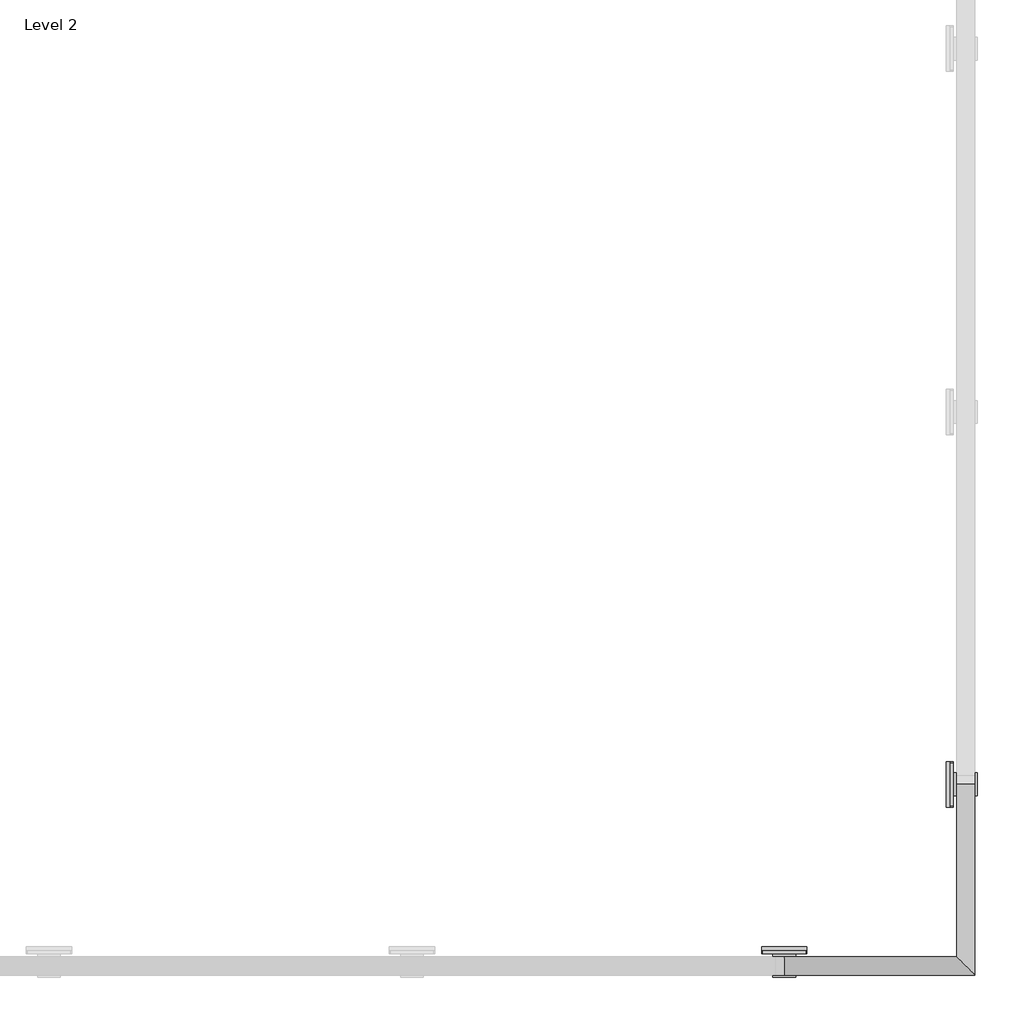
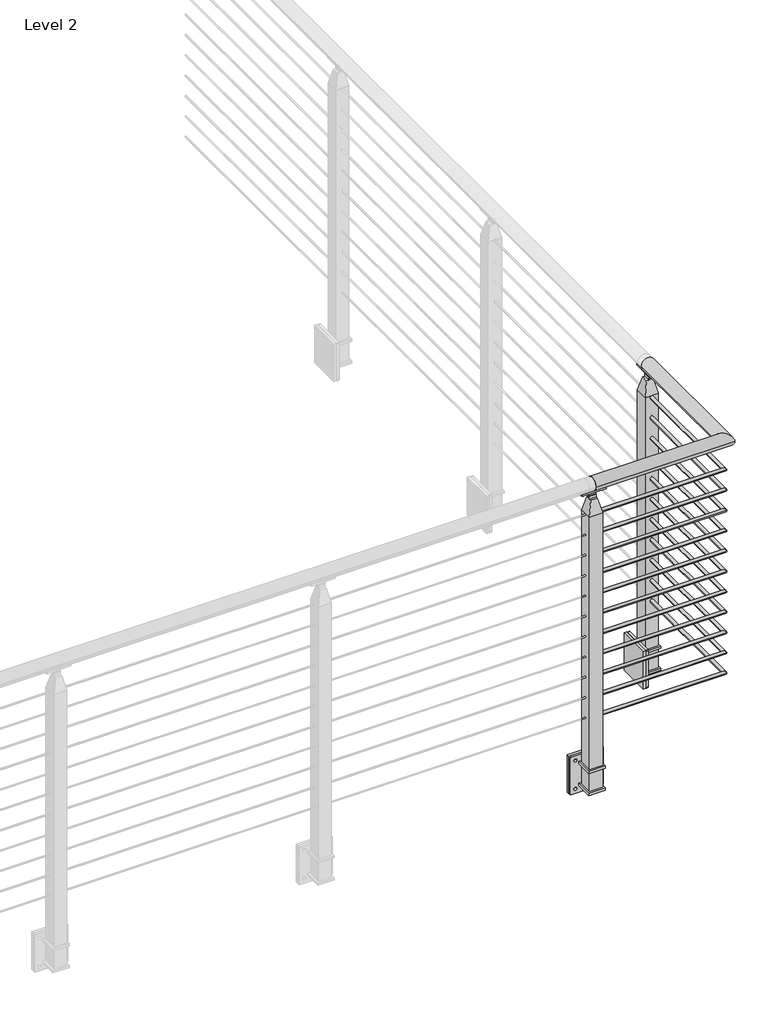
# One storey, part 3 of 17: 1 railing.
"""IFC4 building model written with IfcOpenShell, lengths in millimetres."""

from ifc_helpers import new_model, si_unit, point, frame, frame_2d, origin, place, context, project, spatial, polyline, circle_curve, ellipse_curve, trimmed, segment, composite_curve, outline, extrude, faceted_brep, element, save
from ifc_brep_helpers import plane_surface, cylinder_surface, revolved_surface, advanced_brep

model = new_model("IFC4")

# Units and contexts
model_context = context("Model", 3, world=origin())
ifc_project = project(units=[si_unit("LENGTHUNIT", "METRE", prefix="MILLI")], contexts=[model_context])

# Site, building, storey
site = spatial("IfcSite", under=ifc_project)
building = spatial("IfcBuilding", under=site)
storey = spatial("IfcBuildingStorey", under=building, Name="Level 2", Elevation=3048.0)

# Railing
placement = place(None, origin())
element("IfcRailing", 1, ObjectType="VIVA-CUBE-Cable-Fascia Mount-Corner", at=placement, inside=storey, context=model_context, shape_type="SolidModel", body=[
    advanced_brep(
    [(-4059.2538707, -52324.3556522, 4102.1), (-4059.2538707, -52273.5556522, 4102.1), (-3525.8538707, -52324.3556522, 4102.1), (-3576.6538707, -52273.5556522, 4102.1), (-3525.8538707, -51790.9556522, 4102.1), (-3576.6538707, -51790.9556522, 4102.1)],
    [
        (0, 1, circle_curve(frame((-4059.2538707, -52298.9556522, 4102.1), z_axis=(-1.0, 0.0, 0.0), x_axis=(0.0, 1.0, 0.0)), 25.4)),
        (1, 0, circle_curve(frame((-4059.2538707, -52298.9556522, 4102.1), z_axis=(-1.0, 0.0, 0.0), x_axis=(0.0, 1.0, 0.0)), 25.4)),
        (0, 2),
        (2, 3, ellipse_curve(frame((-3551.2538707, -52298.9556522, 4102.1), z_axis=(-0.7071067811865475, -0.7071067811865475, 0.0), x_axis=(-0.7071067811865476, 0.7071067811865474, 0.0)), 35.9210245, 25.4)),
        (3, 1),
        (3, 2, ellipse_curve(frame((-3551.2538707, -52298.9556522, 4102.1), z_axis=(-0.7071067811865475, -0.7071067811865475, 0.0), x_axis=(-0.7071067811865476, 0.7071067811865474, 0.0)), 35.9210245, 25.4)),
        (4, 5, circle_curve(frame((-3551.2538707, -51790.9556522, 4102.1), z_axis=(0.0, 1.0, 0.0), x_axis=(-1.0, 0.0, 0.0)), 25.4)),
        (5, 4, circle_curve(frame((-3551.2538707, -51790.9556522, 4102.1), z_axis=(0.0, 1.0, 0.0), x_axis=(-1.0, 0.0, 0.0)), 25.4)),
        (2, 4),
        (5, 3),
    ],
    [
        plane_surface(frame((-4059.2538707, -52298.9556522, 4127.5), z_axis=(-1.0, 0.0, 0.0), x_axis=(0.0, 1.0, 0.0))),
        cylinder_surface(frame((-4059.2538707, -52298.9556522, 4102.1), z_axis=(-1.0, 0.0, 0.0), x_axis=(0.0, 1.0, 0.0)), 25.4),
        plane_surface(frame((-3551.2538707, -51790.9556522, 4127.5), z_axis=(0.0, 1.0, 0.0), x_axis=(0.0, 0.0, 1.0))),
        cylinder_surface(frame((-3551.2538707, -52298.9556522, 4102.1), z_axis=(0.0, -1.0, 0.0), x_axis=(-1.0, 0.0, 0.0)), 25.4),
    ],
    [
        (0, [[1, 2]]),
        (1, [[-1, 3, 4, 5]]),
        (1, [[-2, -5, 6, -3]]),
        (2, [[7, 8]]),
        (3, [[-4, 9, -8, 10]]),
        (3, [[-6, -10, -7, -9]]),
    ],
),
    advanced_brep(
    [(-4059.2538707, -52292.6056522, 3981.45), (-4059.2538707, -52305.3056522, 3981.45), (-3557.6038707, -52292.6056522, 3981.45), (-3544.9038707, -52305.3056522, 3981.45), (-3557.6038707, -51790.9556522, 3981.45), (-3544.9038707, -51790.9556522, 3981.45)],
    [
        (0, 1, circle_curve(frame((-4059.2538707, -52298.9556522, 3981.45), z_axis=(-1.0, 0.0, 0.0), x_axis=(0.0, -1.0, 0.0)), 6.35)),
        (1, 0, circle_curve(frame((-4059.2538707, -52298.9556522, 3981.45), z_axis=(-1.0, 0.0, 0.0), x_axis=(0.0, -1.0, 0.0)), 6.35)),
        (0, 2),
        (2, 3, ellipse_curve(frame((-3551.2538707, -52298.9556522, 3981.45), z_axis=(-0.7071067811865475, -0.7071067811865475, 0.0), x_axis=(-0.7071067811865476, 0.7071067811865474, 0.0)), 8.9802561, 6.35)),
        (3, 1),
        (3, 2, ellipse_curve(frame((-3551.2538707, -52298.9556522, 3981.45), z_axis=(-0.7071067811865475, -0.7071067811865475, 0.0), x_axis=(-0.7071067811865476, 0.7071067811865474, 0.0)), 8.9802561, 6.35)),
        (4, 5, circle_curve(frame((-3551.2538707, -51790.9556522, 3981.45), z_axis=(0.0, 1.0, 0.0), x_axis=(1.0, 0.0, 0.0)), 6.35)),
        (5, 4, circle_curve(frame((-3551.2538707, -51790.9556522, 3981.45), z_axis=(0.0, 1.0, 0.0), x_axis=(1.0, 0.0, 0.0)), 6.35)),
        (2, 4),
        (5, 3),
    ],
    [
        plane_surface(frame((-4059.2538707, -52298.9556522, 3987.8), z_axis=(-1.0, 0.0, 0.0), x_axis=(0.0, 1.0, 0.0))),
        cylinder_surface(frame((-4059.2538707, -52298.9556522, 3981.45), z_axis=(-1.0, 0.0, 0.0), x_axis=(0.0, -1.0, 0.0)), 6.35),
        plane_surface(frame((-3551.2538707, -51790.9556522, 3987.8), z_axis=(0.0, 1.0, 0.0), x_axis=(0.0, 0.0, 1.0))),
        cylinder_surface(frame((-3551.2538707, -52298.9556522, 3981.45), z_axis=(0.0, -1.0, 0.0), x_axis=(1.0, 0.0, 0.0)), 6.35),
    ],
    [
        (0, [[1, 2]]),
        (1, [[-1, 3, 4, 5]]),
        (1, [[-2, -5, 6, -3]]),
        (2, [[7, 8]]),
        (3, [[-4, 9, -8, 10]]),
        (3, [[-6, -10, -7, -9]]),
    ],
),
    advanced_brep(
    [(-4059.2538707, -52292.6056522, 3898.9), (-4059.2538707, -52305.3056522, 3898.9), (-3557.6038707, -52292.6056522, 3898.9), (-3544.9038707, -52305.3056522, 3898.9), (-3557.6038707, -51790.9556522, 3898.9), (-3544.9038707, -51790.9556522, 3898.9)],
    [
        (0, 1, circle_curve(frame((-4059.2538707, -52298.9556522, 3898.9), z_axis=(-1.0, 0.0, 0.0), x_axis=(0.0, -1.0, 0.0)), 6.35)),
        (1, 0, circle_curve(frame((-4059.2538707, -52298.9556522, 3898.9), z_axis=(-1.0, 0.0, 0.0), x_axis=(0.0, -1.0, 0.0)), 6.35)),
        (0, 2),
        (2, 3, ellipse_curve(frame((-3551.2538707, -52298.9556522, 3898.9), z_axis=(-0.7071067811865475, -0.7071067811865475, 0.0), x_axis=(-0.7071067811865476, 0.7071067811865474, 0.0)), 8.9802561, 6.35)),
        (3, 1),
        (3, 2, ellipse_curve(frame((-3551.2538707, -52298.9556522, 3898.9), z_axis=(-0.7071067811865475, -0.7071067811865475, 0.0), x_axis=(-0.7071067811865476, 0.7071067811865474, 0.0)), 8.9802561, 6.35)),
        (4, 5, circle_curve(frame((-3551.2538707, -51790.9556522, 3898.9), z_axis=(0.0, 1.0, 0.0), x_axis=(1.0, 0.0, 0.0)), 6.35)),
        (5, 4, circle_curve(frame((-3551.2538707, -51790.9556522, 3898.9), z_axis=(0.0, 1.0, 0.0), x_axis=(1.0, 0.0, 0.0)), 6.35)),
        (2, 4),
        (5, 3),
    ],
    [
        plane_surface(frame((-4059.2538707, -52298.9556522, 3905.25), z_axis=(-1.0, 0.0, 0.0), x_axis=(0.0, 1.0, 0.0))),
        cylinder_surface(frame((-4059.2538707, -52298.9556522, 3898.9), z_axis=(-1.0, 0.0, 0.0), x_axis=(0.0, -1.0, 0.0)), 6.35),
        plane_surface(frame((-3551.2538707, -51790.9556522, 3905.25), z_axis=(0.0, 1.0, 0.0), x_axis=(0.0, 0.0, 1.0))),
        cylinder_surface(frame((-3551.2538707, -52298.9556522, 3898.9), z_axis=(0.0, -1.0, 0.0), x_axis=(1.0, 0.0, 0.0)), 6.35),
    ],
    [
        (0, [[1, 2]]),
        (1, [[-1, 3, 4, 5]]),
        (1, [[-2, -5, 6, -3]]),
        (2, [[7, 8]]),
        (3, [[-4, 9, -8, 10]]),
        (3, [[-6, -10, -7, -9]]),
    ],
),
    advanced_brep(
    [(-4059.2538707, -52292.6056522, 3816.35), (-4059.2538707, -52305.3056522, 3816.35), (-3557.6038707, -52292.6056522, 3816.35), (-3544.9038707, -52305.3056522, 3816.35), (-3557.6038707, -51790.9556522, 3816.35), (-3544.9038707, -51790.9556522, 3816.35)],
    [
        (0, 1, circle_curve(frame((-4059.2538707, -52298.9556522, 3816.35), z_axis=(-1.0, 0.0, 0.0), x_axis=(0.0, -1.0, 0.0)), 6.35)),
        (1, 0, circle_curve(frame((-4059.2538707, -52298.9556522, 3816.35), z_axis=(-1.0, 0.0, 0.0), x_axis=(0.0, -1.0, 0.0)), 6.35)),
        (0, 2),
        (2, 3, ellipse_curve(frame((-3551.2538707, -52298.9556522, 3816.35), z_axis=(-0.7071067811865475, -0.7071067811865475, 0.0), x_axis=(-0.7071067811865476, 0.7071067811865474, 0.0)), 8.9802561, 6.35)),
        (3, 1),
        (3, 2, ellipse_curve(frame((-3551.2538707, -52298.9556522, 3816.35), z_axis=(-0.7071067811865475, -0.7071067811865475, 0.0), x_axis=(-0.7071067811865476, 0.7071067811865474, 0.0)), 8.9802561, 6.35)),
        (4, 5, circle_curve(frame((-3551.2538707, -51790.9556522, 3816.35), z_axis=(0.0, 1.0, 0.0), x_axis=(1.0, 0.0, 0.0)), 6.35)),
        (5, 4, circle_curve(frame((-3551.2538707, -51790.9556522, 3816.35), z_axis=(0.0, 1.0, 0.0), x_axis=(1.0, 0.0, 0.0)), 6.35)),
        (2, 4),
        (5, 3),
    ],
    [
        plane_surface(frame((-4059.2538707, -52298.9556522, 3822.7), z_axis=(-1.0, 0.0, 0.0), x_axis=(0.0, 1.0, 0.0))),
        cylinder_surface(frame((-4059.2538707, -52298.9556522, 3816.35), z_axis=(-1.0, 0.0, 0.0), x_axis=(0.0, -1.0, 0.0)), 6.35),
        plane_surface(frame((-3551.2538707, -51790.9556522, 3822.7), z_axis=(0.0, 1.0, 0.0), x_axis=(0.0, 0.0, 1.0))),
        cylinder_surface(frame((-3551.2538707, -52298.9556522, 3816.35), z_axis=(0.0, -1.0, 0.0), x_axis=(1.0, 0.0, 0.0)), 6.35),
    ],
    [
        (0, [[1, 2]]),
        (1, [[-1, 3, 4, 5]]),
        (1, [[-2, -5, 6, -3]]),
        (2, [[7, 8]]),
        (3, [[-4, 9, -8, 10]]),
        (3, [[-6, -10, -7, -9]]),
    ],
),
    advanced_brep(
    [(-4059.2538707, -52292.6056522, 3733.8), (-4059.2538707, -52305.3056522, 3733.8), (-3557.6038707, -52292.6056522, 3733.8), (-3544.9038707, -52305.3056522, 3733.8), (-3557.6038707, -51790.9556522, 3733.8), (-3544.9038707, -51790.9556522, 3733.8)],
    [
        (0, 1, circle_curve(frame((-4059.2538707, -52298.9556522, 3733.8), z_axis=(-1.0, 0.0, 0.0), x_axis=(0.0, -1.0, 0.0)), 6.35)),
        (1, 0, circle_curve(frame((-4059.2538707, -52298.9556522, 3733.8), z_axis=(-1.0, 0.0, 0.0), x_axis=(0.0, -1.0, 0.0)), 6.35)),
        (0, 2),
        (2, 3, ellipse_curve(frame((-3551.2538707, -52298.9556522, 3733.8), z_axis=(-0.7071067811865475, -0.7071067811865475, 0.0), x_axis=(-0.7071067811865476, 0.7071067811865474, 0.0)), 8.9802561, 6.35)),
        (3, 1),
        (3, 2, ellipse_curve(frame((-3551.2538707, -52298.9556522, 3733.8), z_axis=(-0.7071067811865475, -0.7071067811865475, 0.0), x_axis=(-0.7071067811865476, 0.7071067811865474, 0.0)), 8.9802561, 6.35)),
        (4, 5, circle_curve(frame((-3551.2538707, -51790.9556522, 3733.8), z_axis=(0.0, 1.0, 0.0), x_axis=(1.0, 0.0, 0.0)), 6.35)),
        (5, 4, circle_curve(frame((-3551.2538707, -51790.9556522, 3733.8), z_axis=(0.0, 1.0, 0.0), x_axis=(1.0, 0.0, 0.0)), 6.35)),
        (2, 4),
        (5, 3),
    ],
    [
        plane_surface(frame((-4059.2538707, -52298.9556522, 3740.15), z_axis=(-1.0, 0.0, 0.0), x_axis=(0.0, 1.0, 0.0))),
        cylinder_surface(frame((-4059.2538707, -52298.9556522, 3733.8), z_axis=(-1.0, 0.0, 0.0), x_axis=(0.0, -1.0, 0.0)), 6.35),
        plane_surface(frame((-3551.2538707, -51790.9556522, 3740.15), z_axis=(0.0, 1.0, 0.0), x_axis=(0.0, 0.0, 1.0))),
        cylinder_surface(frame((-3551.2538707, -52298.9556522, 3733.8), z_axis=(0.0, -1.0, 0.0), x_axis=(1.0, 0.0, 0.0)), 6.35),
    ],
    [
        (0, [[1, 2]]),
        (1, [[-1, 3, 4, 5]]),
        (1, [[-2, -5, 6, -3]]),
        (2, [[7, 8]]),
        (3, [[-4, 9, -8, 10]]),
        (3, [[-6, -10, -7, -9]]),
    ],
),
    advanced_brep(
    [(-4059.2538707, -52292.6056522, 3651.25), (-4059.2538707, -52305.3056522, 3651.25), (-3557.6038707, -52292.6056522, 3651.25), (-3544.9038707, -52305.3056522, 3651.25), (-3557.6038707, -51790.9556522, 3651.25), (-3544.9038707, -51790.9556522, 3651.25)],
    [
        (0, 1, circle_curve(frame((-4059.2538707, -52298.9556522, 3651.25), z_axis=(-1.0, 0.0, 0.0), x_axis=(0.0, -1.0, 0.0)), 6.35)),
        (1, 0, circle_curve(frame((-4059.2538707, -52298.9556522, 3651.25), z_axis=(-1.0, 0.0, 0.0), x_axis=(0.0, -1.0, 0.0)), 6.35)),
        (0, 2),
        (2, 3, ellipse_curve(frame((-3551.2538707, -52298.9556522, 3651.25), z_axis=(-0.7071067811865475, -0.7071067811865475, 0.0), x_axis=(-0.7071067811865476, 0.7071067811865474, 0.0)), 8.9802561, 6.35)),
        (3, 1),
        (3, 2, ellipse_curve(frame((-3551.2538707, -52298.9556522, 3651.25), z_axis=(-0.7071067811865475, -0.7071067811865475, 0.0), x_axis=(-0.7071067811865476, 0.7071067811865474, 0.0)), 8.9802561, 6.35)),
        (4, 5, circle_curve(frame((-3551.2538707, -51790.9556522, 3651.25), z_axis=(0.0, 1.0, 0.0), x_axis=(1.0, 0.0, 0.0)), 6.35)),
        (5, 4, circle_curve(frame((-3551.2538707, -51790.9556522, 3651.25), z_axis=(0.0, 1.0, 0.0), x_axis=(1.0, 0.0, 0.0)), 6.35)),
        (2, 4),
        (5, 3),
    ],
    [
        plane_surface(frame((-4059.2538707, -52298.9556522, 3657.6), z_axis=(-1.0, 0.0, 0.0), x_axis=(0.0, 1.0, 0.0))),
        cylinder_surface(frame((-4059.2538707, -52298.9556522, 3651.25), z_axis=(-1.0, 0.0, 0.0), x_axis=(0.0, -1.0, 0.0)), 6.35),
        plane_surface(frame((-3551.2538707, -51790.9556522, 3657.6), z_axis=(0.0, 1.0, 0.0), x_axis=(0.0, 0.0, 1.0))),
        cylinder_surface(frame((-3551.2538707, -52298.9556522, 3651.25), z_axis=(0.0, -1.0, 0.0), x_axis=(1.0, 0.0, 0.0)), 6.35),
    ],
    [
        (0, [[1, 2]]),
        (1, [[-1, 3, 4, 5]]),
        (1, [[-2, -5, 6, -3]]),
        (2, [[7, 8]]),
        (3, [[-4, 9, -8, 10]]),
        (3, [[-6, -10, -7, -9]]),
    ],
),
    advanced_brep(
    [(-4059.2538707, -52292.6056522, 3568.7), (-4059.2538707, -52305.3056522, 3568.7), (-3557.6038707, -52292.6056522, 3568.7), (-3544.9038707, -52305.3056522, 3568.7), (-3557.6038707, -51790.9556522, 3568.7), (-3544.9038707, -51790.9556522, 3568.7)],
    [
        (0, 1, circle_curve(frame((-4059.2538707, -52298.9556522, 3568.7), z_axis=(-1.0, 0.0, 0.0), x_axis=(0.0, -1.0, 0.0)), 6.35)),
        (1, 0, circle_curve(frame((-4059.2538707, -52298.9556522, 3568.7), z_axis=(-1.0, 0.0, 0.0), x_axis=(0.0, -1.0, 0.0)), 6.35)),
        (0, 2),
        (2, 3, ellipse_curve(frame((-3551.2538707, -52298.9556522, 3568.7), z_axis=(-0.7071067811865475, -0.7071067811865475, 0.0), x_axis=(-0.7071067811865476, 0.7071067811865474, 0.0)), 8.9802561, 6.35)),
        (3, 1),
        (3, 2, ellipse_curve(frame((-3551.2538707, -52298.9556522, 3568.7), z_axis=(-0.7071067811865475, -0.7071067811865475, 0.0), x_axis=(-0.7071067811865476, 0.7071067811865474, 0.0)), 8.9802561, 6.35)),
        (4, 5, circle_curve(frame((-3551.2538707, -51790.9556522, 3568.7), z_axis=(0.0, 1.0, 0.0), x_axis=(1.0, 0.0, 0.0)), 6.35)),
        (5, 4, circle_curve(frame((-3551.2538707, -51790.9556522, 3568.7), z_axis=(0.0, 1.0, 0.0), x_axis=(1.0, 0.0, 0.0)), 6.35)),
        (2, 4),
        (5, 3),
    ],
    [
        plane_surface(frame((-4059.2538707, -52298.9556522, 3575.05), z_axis=(-1.0, 0.0, 0.0), x_axis=(0.0, 1.0, 0.0))),
        cylinder_surface(frame((-4059.2538707, -52298.9556522, 3568.7), z_axis=(-1.0, 0.0, 0.0), x_axis=(0.0, -1.0, 0.0)), 6.35),
        plane_surface(frame((-3551.2538707, -51790.9556522, 3575.05), z_axis=(0.0, 1.0, 0.0), x_axis=(0.0, 0.0, 1.0))),
        cylinder_surface(frame((-3551.2538707, -52298.9556522, 3568.7), z_axis=(0.0, -1.0, 0.0), x_axis=(1.0, 0.0, 0.0)), 6.35),
    ],
    [
        (0, [[1, 2]]),
        (1, [[-1, 3, 4, 5]]),
        (1, [[-2, -5, 6, -3]]),
        (2, [[7, 8]]),
        (3, [[-4, 9, -8, 10]]),
        (3, [[-6, -10, -7, -9]]),
    ],
),
    advanced_brep(
    [(-4059.2538707, -52292.6056522, 3486.15), (-4059.2538707, -52305.3056522, 3486.15), (-3557.6038707, -52292.6056522, 3486.15), (-3544.9038707, -52305.3056522, 3486.15), (-3557.6038707, -51790.9556522, 3486.15), (-3544.9038707, -51790.9556522, 3486.15)],
    [
        (0, 1, circle_curve(frame((-4059.2538707, -52298.9556522, 3486.15), z_axis=(-1.0, 0.0, 0.0), x_axis=(0.0, -1.0, 0.0)), 6.35)),
        (1, 0, circle_curve(frame((-4059.2538707, -52298.9556522, 3486.15), z_axis=(-1.0, 0.0, 0.0), x_axis=(0.0, -1.0, 0.0)), 6.35)),
        (0, 2),
        (2, 3, ellipse_curve(frame((-3551.2538707, -52298.9556522, 3486.15), z_axis=(-0.7071067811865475, -0.7071067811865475, 0.0), x_axis=(-0.7071067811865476, 0.7071067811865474, 0.0)), 8.9802561, 6.35)),
        (3, 1),
        (3, 2, ellipse_curve(frame((-3551.2538707, -52298.9556522, 3486.15), z_axis=(-0.7071067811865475, -0.7071067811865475, 0.0), x_axis=(-0.7071067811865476, 0.7071067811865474, 0.0)), 8.9802561, 6.35)),
        (4, 5, circle_curve(frame((-3551.2538707, -51790.9556522, 3486.15), z_axis=(0.0, 1.0, 0.0), x_axis=(1.0, 0.0, 0.0)), 6.35)),
        (5, 4, circle_curve(frame((-3551.2538707, -51790.9556522, 3486.15), z_axis=(0.0, 1.0, 0.0), x_axis=(1.0, 0.0, 0.0)), 6.35)),
        (2, 4),
        (5, 3),
    ],
    [
        plane_surface(frame((-4059.2538707, -52298.9556522, 3492.5), z_axis=(-1.0, 0.0, 0.0), x_axis=(0.0, 1.0, 0.0))),
        cylinder_surface(frame((-4059.2538707, -52298.9556522, 3486.15), z_axis=(-1.0, 0.0, 0.0), x_axis=(0.0, -1.0, 0.0)), 6.35),
        plane_surface(frame((-3551.2538707, -51790.9556522, 3492.5), z_axis=(0.0, 1.0, 0.0), x_axis=(0.0, 0.0, 1.0))),
        cylinder_surface(frame((-3551.2538707, -52298.9556522, 3486.15), z_axis=(0.0, -1.0, 0.0), x_axis=(1.0, 0.0, 0.0)), 6.35),
    ],
    [
        (0, [[1, 2]]),
        (1, [[-1, 3, 4, 5]]),
        (1, [[-2, -5, 6, -3]]),
        (2, [[7, 8]]),
        (3, [[-4, 9, -8, 10]]),
        (3, [[-6, -10, -7, -9]]),
    ],
),
    advanced_brep(
    [(-4059.2538707, -52292.6056522, 3403.6), (-4059.2538707, -52305.3056522, 3403.6), (-3557.6038707, -52292.6056522, 3403.6), (-3544.9038707, -52305.3056522, 3403.6), (-3557.6038707, -51790.9556522, 3403.6), (-3544.9038707, -51790.9556522, 3403.6)],
    [
        (0, 1, circle_curve(frame((-4059.2538707, -52298.9556522, 3403.6), z_axis=(-1.0, 0.0, 0.0), x_axis=(0.0, -1.0, 0.0)), 6.35)),
        (1, 0, circle_curve(frame((-4059.2538707, -52298.9556522, 3403.6), z_axis=(-1.0, 0.0, 0.0), x_axis=(0.0, -1.0, 0.0)), 6.35)),
        (0, 2),
        (2, 3, ellipse_curve(frame((-3551.2538707, -52298.9556522, 3403.6), z_axis=(-0.7071067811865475, -0.7071067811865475, 0.0), x_axis=(-0.7071067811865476, 0.7071067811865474, 0.0)), 8.9802561, 6.35)),
        (3, 1),
        (3, 2, ellipse_curve(frame((-3551.2538707, -52298.9556522, 3403.6), z_axis=(-0.7071067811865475, -0.7071067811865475, 0.0), x_axis=(-0.7071067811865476, 0.7071067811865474, 0.0)), 8.9802561, 6.35)),
        (4, 5, circle_curve(frame((-3551.2538707, -51790.9556522, 3403.6), z_axis=(0.0, 1.0, 0.0), x_axis=(1.0, 0.0, 0.0)), 6.35)),
        (5, 4, circle_curve(frame((-3551.2538707, -51790.9556522, 3403.6), z_axis=(0.0, 1.0, 0.0), x_axis=(1.0, 0.0, 0.0)), 6.35)),
        (2, 4),
        (5, 3),
    ],
    [
        plane_surface(frame((-4059.2538707, -52298.9556522, 3409.95), z_axis=(-1.0, 0.0, 0.0), x_axis=(0.0, 1.0, 0.0))),
        cylinder_surface(frame((-4059.2538707, -52298.9556522, 3403.6), z_axis=(-1.0, 0.0, 0.0), x_axis=(0.0, -1.0, 0.0)), 6.35),
        plane_surface(frame((-3551.2538707, -51790.9556522, 3409.95), z_axis=(0.0, 1.0, 0.0), x_axis=(0.0, 0.0, 1.0))),
        cylinder_surface(frame((-3551.2538707, -52298.9556522, 3403.6), z_axis=(0.0, -1.0, 0.0), x_axis=(1.0, 0.0, 0.0)), 6.35),
    ],
    [
        (0, [[1, 2]]),
        (1, [[-1, 3, 4, 5]]),
        (1, [[-2, -5, 6, -3]]),
        (2, [[7, 8]]),
        (3, [[-4, 9, -8, 10]]),
        (3, [[-6, -10, -7, -9]]),
    ],
),
    advanced_brep(
    [(-4059.2538707, -52292.6056522, 3321.05), (-4059.2538707, -52305.3056522, 3321.05), (-3557.6038707, -52292.6056522, 3321.05), (-3544.9038707, -52305.3056522, 3321.05), (-3557.6038707, -51790.9556522, 3321.05), (-3544.9038707, -51790.9556522, 3321.05)],
    [
        (0, 1, circle_curve(frame((-4059.2538707, -52298.9556522, 3321.05), z_axis=(-1.0, 0.0, 0.0), x_axis=(0.0, -1.0, 0.0)), 6.35)),
        (1, 0, circle_curve(frame((-4059.2538707, -52298.9556522, 3321.05), z_axis=(-1.0, 0.0, 0.0), x_axis=(0.0, -1.0, 0.0)), 6.35)),
        (0, 2),
        (2, 3, ellipse_curve(frame((-3551.2538707, -52298.9556522, 3321.05), z_axis=(-0.7071067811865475, -0.7071067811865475, 0.0), x_axis=(-0.7071067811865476, 0.7071067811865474, 0.0)), 8.9802561, 6.35)),
        (3, 1),
        (3, 2, ellipse_curve(frame((-3551.2538707, -52298.9556522, 3321.05), z_axis=(-0.7071067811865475, -0.7071067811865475, 0.0), x_axis=(-0.7071067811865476, 0.7071067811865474, 0.0)), 8.9802561, 6.35)),
        (4, 5, circle_curve(frame((-3551.2538707, -51790.9556522, 3321.05), z_axis=(0.0, 1.0, 0.0), x_axis=(1.0, 0.0, 0.0)), 6.35)),
        (5, 4, circle_curve(frame((-3551.2538707, -51790.9556522, 3321.05), z_axis=(0.0, 1.0, 0.0), x_axis=(1.0, 0.0, 0.0)), 6.35)),
        (2, 4),
        (5, 3),
    ],
    [
        plane_surface(frame((-4059.2538707, -52298.9556522, 3327.4), z_axis=(-1.0, 0.0, 0.0), x_axis=(0.0, 1.0, 0.0))),
        cylinder_surface(frame((-4059.2538707, -52298.9556522, 3321.05), z_axis=(-1.0, 0.0, 0.0), x_axis=(0.0, -1.0, 0.0)), 6.35),
        plane_surface(frame((-3551.2538707, -51790.9556522, 3327.4), z_axis=(0.0, 1.0, 0.0), x_axis=(0.0, 0.0, 1.0))),
        cylinder_surface(frame((-3551.2538707, -52298.9556522, 3321.05), z_axis=(0.0, -1.0, 0.0), x_axis=(1.0, 0.0, 0.0)), 6.35),
    ],
    [
        (0, [[1, 2]]),
        (1, [[-1, 3, 4, 5]]),
        (1, [[-2, -5, 6, -3]]),
        (2, [[7, 8]]),
        (3, [[-4, 9, -8, 10]]),
        (3, [[-6, -10, -7, -9]]),
    ],
),
    advanced_brep(
    [(-4059.2538707, -52292.6056522, 3238.5), (-4059.2538707, -52305.3056522, 3238.5), (-3557.6038707, -52292.6056522, 3238.5), (-3544.9038707, -52305.3056522, 3238.5), (-3557.6038707, -51790.9556522, 3238.5), (-3544.9038707, -51790.9556522, 3238.5)],
    [
        (0, 1, circle_curve(frame((-4059.2538707, -52298.9556522, 3238.5), z_axis=(-1.0, 0.0, 0.0), x_axis=(0.0, -1.0, 0.0)), 6.35)),
        (1, 0, circle_curve(frame((-4059.2538707, -52298.9556522, 3238.5), z_axis=(-1.0, 0.0, 0.0), x_axis=(0.0, -1.0, 0.0)), 6.35)),
        (0, 2),
        (2, 3, ellipse_curve(frame((-3551.2538707, -52298.9556522, 3238.5), z_axis=(-0.7071067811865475, -0.7071067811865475, 0.0), x_axis=(-0.7071067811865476, 0.7071067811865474, 0.0)), 8.9802561, 6.35)),
        (3, 1),
        (3, 2, ellipse_curve(frame((-3551.2538707, -52298.9556522, 3238.5), z_axis=(-0.7071067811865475, -0.7071067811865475, 0.0), x_axis=(-0.7071067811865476, 0.7071067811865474, 0.0)), 8.9802561, 6.35)),
        (4, 5, circle_curve(frame((-3551.2538707, -51790.9556522, 3238.5), z_axis=(0.0, 1.0, 0.0), x_axis=(1.0, 0.0, 0.0)), 6.35)),
        (5, 4, circle_curve(frame((-3551.2538707, -51790.9556522, 3238.5), z_axis=(0.0, 1.0, 0.0), x_axis=(1.0, 0.0, 0.0)), 6.35)),
        (2, 4),
        (5, 3),
    ],
    [
        plane_surface(frame((-4059.2538707, -52298.9556522, 3244.85), z_axis=(-1.0, 0.0, 0.0), x_axis=(0.0, 1.0, 0.0))),
        cylinder_surface(frame((-4059.2538707, -52298.9556522, 3238.5), z_axis=(-1.0, 0.0, 0.0), x_axis=(0.0, -1.0, 0.0)), 6.35),
        plane_surface(frame((-3551.2538707, -51790.9556522, 3244.85), z_axis=(0.0, 1.0, 0.0), x_axis=(0.0, 0.0, 1.0))),
        cylinder_surface(frame((-3551.2538707, -52298.9556522, 3238.5), z_axis=(0.0, -1.0, 0.0), x_axis=(1.0, 0.0, 0.0)), 6.35),
    ],
    [
        (0, [[1, 2]]),
        (1, [[-1, 3, 4, 5]]),
        (1, [[-2, -5, 6, -3]]),
        (2, [[7, 8]]),
        (3, [[-4, 9, -8, 10]]),
        (3, [[-6, -10, -7, -9]]),
    ],
),
    advanced_brep(
    [(-4059.2538707, -52292.6056522, 3155.95), (-4059.2538707, -52305.3056522, 3155.95), (-3557.6038707, -52292.6056522, 3155.95), (-3544.9038707, -52305.3056522, 3155.95), (-3557.6038707, -51790.9556522, 3155.95), (-3544.9038707, -51790.9556522, 3155.95)],
    [
        (0, 1, circle_curve(frame((-4059.2538707, -52298.9556522, 3155.95), z_axis=(-1.0, 0.0, 0.0), x_axis=(0.0, -1.0, 0.0)), 6.35)),
        (1, 0, circle_curve(frame((-4059.2538707, -52298.9556522, 3155.95), z_axis=(-1.0, 0.0, 0.0), x_axis=(0.0, -1.0, 0.0)), 6.35)),
        (0, 2),
        (2, 3, ellipse_curve(frame((-3551.2538707, -52298.9556522, 3155.95), z_axis=(-0.7071067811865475, -0.7071067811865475, 0.0), x_axis=(-0.7071067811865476, 0.7071067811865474, 0.0)), 8.9802561, 6.35)),
        (3, 1),
        (3, 2, ellipse_curve(frame((-3551.2538707, -52298.9556522, 3155.95), z_axis=(-0.7071067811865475, -0.7071067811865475, 0.0), x_axis=(-0.7071067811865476, 0.7071067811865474, 0.0)), 8.9802561, 6.35)),
        (4, 5, circle_curve(frame((-3551.2538707, -51790.9556522, 3155.95), z_axis=(0.0, 1.0, 0.0), x_axis=(1.0, 0.0, 0.0)), 6.35)),
        (5, 4, circle_curve(frame((-3551.2538707, -51790.9556522, 3155.95), z_axis=(0.0, 1.0, 0.0), x_axis=(1.0, 0.0, 0.0)), 6.35)),
        (2, 4),
        (5, 3),
    ],
    [
        plane_surface(frame((-4059.2538707, -52298.9556522, 3162.3), z_axis=(-1.0, 0.0, 0.0), x_axis=(0.0, 1.0, 0.0))),
        cylinder_surface(frame((-4059.2538707, -52298.9556522, 3155.95), z_axis=(-1.0, 0.0, 0.0), x_axis=(0.0, -1.0, 0.0)), 6.35),
        plane_surface(frame((-3551.2538707, -51790.9556522, 3162.3), z_axis=(0.0, 1.0, 0.0), x_axis=(0.0, 0.0, 1.0))),
        cylinder_surface(frame((-3551.2538707, -52298.9556522, 3155.95), z_axis=(0.0, -1.0, 0.0), x_axis=(1.0, 0.0, 0.0)), 6.35),
    ],
    [
        (0, [[1, 2]]),
        (1, [[-1, 3, 4, 5]]),
        (1, [[-2, -5, 6, -3]]),
        (2, [[7, 8]]),
        (3, [[-4, 9, -8, 10]]),
        (3, [[-6, -10, -7, -9]]),
    ],
),
    extrude(outline(polyline([(-3605.7669063, -51727.0587772), (-3595.7847063, -51727.0587772), (-3595.7847063, -51854.0587772), (-3605.7669063, -51854.0587772), (-3605.7669063, -51727.0587772)])), frame((0.0, 0.0, 2838.45), z_axis=(0.0, 0.0, 1.0), x_axis=(1.0, 0.0, 0.0)), (0.0, 0.0, 1.0), 152.4),
    extrude(outline(composite_curve([segment(trimmed(circle_curve(frame_2d((-51729.5987772, 2988.31)), 2.54), [point((-51729.5987772, 2990.85))], [point((-51727.0587772, 2988.31))], False, "CARTESIAN"), True, "CONTINUOUS"), segment(polyline([(-51727.0587772, 2988.31), (-51727.0587772, 2840.99)]), True, "CONTINUOUS"), segment(trimmed(circle_curve(frame_2d((-51729.5987772, 2840.99)), 2.54), [point((-51727.0587772, 2840.99))], [point((-51729.5987772, 2838.45))], False, "CARTESIAN"), True, "CONTINUOUS"), segment(polyline([(-51729.5987772, 2838.45), (-51851.5187772, 2838.45)]), True, "CONTINUOUS"), segment(trimmed(circle_curve(frame_2d((-51851.5187772, 2840.99)), 2.54), [point((-51851.5187772, 2838.45))], [point((-51854.0587772, 2840.99))], False, "CARTESIAN"), True, "CONTINUOUS"), segment(polyline([(-51854.0587772, 2840.99), (-51854.0587772, 2988.31)]), True, "CONTINUOUS"), segment(trimmed(circle_curve(frame_2d((-51851.5187772, 2988.31)), 2.54), [point((-51854.0587772, 2988.31))], [point((-51851.5187772, 2990.85))], False, "CARTESIAN"), True, "CONTINUOUS"), segment(polyline([(-51851.5187772, 2990.85), (-51729.5987772, 2990.85)]), True, "CONTINUOUS")], self_intersect=False), holes=[composite_curve([segment(trimmed(circle_curve(frame_2d((-51835.0087772, 2971.8)), 5.55625), [point((-51829.4525272, 2971.8))], [point((-51840.5650272, 2971.8))], True, "CARTESIAN"), True, "CONTINUOUS"), segment(trimmed(circle_curve(frame_2d((-51835.0087772, 2971.8)), 5.55625), [point((-51840.5650272, 2971.8))], [point((-51829.4525272, 2971.8))], True, "CARTESIAN"), True, "CONTINUOUS")], self_intersect=False), composite_curve([segment(trimmed(circle_curve(frame_2d((-51746.1087772, 2971.8)), 5.55625), [point((-51740.5525272, 2971.8))], [point((-51751.6650272, 2971.8))], True, "CARTESIAN"), True, "CONTINUOUS"), segment(trimmed(circle_curve(frame_2d((-51746.1087772, 2971.8)), 5.55625), [point((-51751.6650272, 2971.8))], [point((-51740.5525272, 2971.8))], True, "CARTESIAN"), True, "CONTINUOUS")], self_intersect=False), composite_curve([segment(trimmed(circle_curve(frame_2d((-51746.1087772, 2857.5)), 5.55625), [point((-51740.5525272, 2857.5))], [point((-51751.6650272, 2857.5))], True, "CARTESIAN"), True, "CONTINUOUS"), segment(trimmed(circle_curve(frame_2d((-51746.1087772, 2857.5)), 5.55625), [point((-51751.6650272, 2857.5))], [point((-51740.5525272, 2857.5))], True, "CARTESIAN"), True, "CONTINUOUS")], self_intersect=False), composite_curve([segment(trimmed(circle_curve(frame_2d((-51835.0087772, 2857.5)), 5.55625), [point((-51829.4525272, 2857.5))], [point((-51840.5650272, 2857.5))], True, "CARTESIAN"), True, "CONTINUOUS"), segment(trimmed(circle_curve(frame_2d((-51835.0087772, 2857.5)), 5.55625), [point((-51840.5650272, 2857.5))], [point((-51829.4525272, 2857.5))], True, "CARTESIAN"), True, "CONTINUOUS")], self_intersect=False)]), frame((-3595.7847063, 0.0, 0.0), z_axis=(1.0, 0.0, 0.0), x_axis=(0.0, 1.0, 0.0)), (0.0, 0.0, 1.0), 9.9822),
    extrude(outline(polyline([(-3595.7847063, -51822.3087772), (-3595.7847063, -51758.8087772), (-3519.5038707, -51758.8087772), (-3519.5038707, -51822.3087772), (-3595.7847063, -51822.3087772)])), frame((0.0, 0.0, 2865.4375), z_axis=(0.0, 0.0, 1.0), x_axis=(1.0, 0.0, 0.0)), (0.0, 0.0, 1.0), 9.5123),
    extrude(outline(polyline([(-3595.7847063, -51822.3087772), (-3595.7847063, -51758.8087772), (-3519.5038707, -51758.8087772), (-3519.5038707, -51822.3087772), (-3595.7847063, -51822.3087772)])), frame((0.0, 0.0, 2954.3375), z_axis=(0.0, 0.0, 1.0), x_axis=(1.0, 0.0, 0.0)), (0.0, 0.0, 1.0), 9.525),
    faceted_brep([(-3563.9538707, -51777.8587772, 4045.2902749), (-3563.9538707, -51803.2587772, 4045.2902749), (-3555.2226207, -51803.2587772, 4045.2902749), (-3555.2226207, -51777.8587772, 4045.2902749), (-3538.5538707, -51803.2587772, 4045.2902749), (-3538.5538707, -51777.8587772, 4045.2902749), (-3547.2851207, -51777.8587772, 4045.2902749), (-3547.2851207, -51803.2587772, 4045.2902749), (-3576.6538707, -51765.1587772, 3989.1347854), (-3525.8538707, -51765.1587772, 3989.1347854), (-3576.6538707, -51815.9587772, 3989.1347854), (-3525.8538707, -51815.9587772, 3989.1347854), (-3576.6538707, -51765.1587772, 2874.9498), (-3525.8538707, -51765.1587772, 2874.9498), (-3525.8538707, -51815.9587772, 2874.9498), (-3576.6538707, -51815.9587772, 2874.9498), (-3547.2851207, -51803.2587772, 4057.3306013), (-3547.2851207, -51777.8587772, 4057.3306013), (-3555.2226207, -51777.8587772, 4057.3306013), (-3555.2226207, -51803.2587772, 4057.3306013)], [[[0, 1, 2, 3]], [[4, 5, 6, 7]], [[8, 0, 3, 6, 5, 9]], [[1, 0, 8, 10]], [[1, 10, 11, 4, 7, 2]], [[5, 4, 11, 9]], [[12, 13, 14, 15]], [[12, 15, 10, 8]], [[15, 14, 11, 10]], [[14, 13, 9, 11]], [[13, 12, 8, 9]], [[16, 17, 18, 19]], [[17, 16, 7, 6]], [[18, 17, 6, 3]], [[19, 18, 3, 2]], [[16, 19, 2, 7]]]),
    extrude(outline(composite_curve([segment(trimmed(circle_curve(frame_2d((4102.1433184, -3551.3505991)), 25.4345159), [point((4080.0284941, -3538.7867962))], [point((4079.9335733, -3563.7458328))], True, "CARTESIAN"), True, "CONTINUOUS"), segment(trimmed(circle_curve(frame_2d((4077.4310885, -3564.990486)), 2.7949225), [point((4079.9335733, -3563.7458328))], [point((4075.0585031, -3566.467791))], False, "CARTESIAN"), True, "CONTINUOUS"), segment(trimmed(circle_curve(frame_2d((4102.905945, -3551.217136)), 31.75), [point((4075.0585031, -3566.467791))], [point((4075.6392616, -3534.9508988))], False, "CARTESIAN"), True, "CONTINUOUS"), segment(trimmed(circle_curve(frame_2d((4077.5101807, -3537.2392385)), 2.9558141), [point((4075.6392616, -3534.9508988))], [point((4080.0284941, -3538.7867962))], False, "CARTESIAN"), True, "CONTINUOUS")], self_intersect=False)), frame((0.0, -51835.7961772, 0.0), z_axis=(0.0, 1.0, 0.0), x_axis=(0.0, 0.0, 1.0)), (0.0, 0.0, 1.0), 90.4748),
    advanced_brep(
    [(-3553.7938707, -51763.4908623, 4071.3685171), (-3553.7938707, -51777.8587772, 4057.0006022), (-3553.7938707, -51803.2587772, 4057.0006022), (-3553.7938707, -51817.626692, 4071.3685171), (-3548.7138707, -51763.4908623, 4071.3685171), (-3548.7138707, -51817.626692, 4071.3685171), (-3548.7138707, -51803.2587772, 4057.0006022), (-3548.7138707, -51777.8587772, 4057.0006022)],
    [
        (0, 1, circle_curve(frame((-3553.7938707, -51763.4908623, 4057.0006022), z_axis=(1.0, 0.0, 0.0), x_axis=(0.0, -1.0, 0.0)), 14.3679149)),
        (1, 2, circle_curve(frame((-3553.7938707, -51790.5587772, 4057.0006022), z_axis=(-1.0, 0.0, 0.0), x_axis=(0.0, -1.0, 0.0)), 12.7)),
        (2, 3, circle_curve(frame((-3553.7938707, -51817.626692, 4057.0006022), z_axis=(1.0, 0.0, 0.0), x_axis=(0.0, -1.0, 0.0)), 14.3679149)),
        (3, 0),
        (4, 5),
        (5, 6, circle_curve(frame((-3548.7138707, -51817.626692, 4057.0006022), z_axis=(-1.0, 0.0, 0.0), x_axis=(0.0, -1.0, 0.0)), 14.3679149)),
        (6, 7, circle_curve(frame((-3548.7138707, -51790.5587772, 4057.0006022), z_axis=(1.0, 0.0, 0.0), x_axis=(0.0, -1.0, 0.0)), 12.7)),
        (7, 4, circle_curve(frame((-3548.7138707, -51763.4908623, 4057.0006022), z_axis=(-1.0, 0.0, 0.0), x_axis=(0.0, -1.0, 0.0)), 14.3679149)),
        (0, 4),
        (7, 1),
        (6, 2),
        (5, 3),
    ],
    [
        plane_surface(frame((-3553.7938707, -51777.8587772, 4057.0006022), z_axis=(-1.0, 0.0, 0.0), x_axis=(0.0, 0.0, -1.0))),
        plane_surface(frame((-3548.7138707, -51777.8587772, 4057.0006022), z_axis=(1.0, 0.0, 0.0), x_axis=(0.0, 0.0, 1.0))),
        revolved_surface(polyline([(-3548.7138707, -51777.8587772, 4057.0006022), (-3553.7938707, -51777.8587772, 4057.0006022)]), (-3548.7138707, -51763.4908623, 4057.0006022), (1.0, 0.0, 0.0)),
        cylinder_surface(frame((-3548.7138707, -51790.5587772, 4057.0006022), z_axis=(-1.0, 0.0, 0.0), x_axis=(0.0, -1.0, 0.0)), 12.7),
        revolved_surface(polyline([(-3548.7138707, -51831.9946069, 4057.0006022), (-3553.7938707, -51831.9946069, 4057.0006022)]), (-3548.7138707, -51817.626692, 4057.0006022), (1.0, 0.0, 0.0)),
        plane_surface(frame((-3553.7938707, -51817.626692, 4071.3685171), z_axis=(0.0, 0.0, 1.0), x_axis=(1.0, 0.0, 0.0))),
    ],
    [
        (0, [[1, 2, 3, 4]]),
        (1, [[5, 6, 7, 8]]),
        (2, [[-1, 9, -8, 10]]),
        (3, [[-2, -10, -7, 11]]),
        (4, [[-3, -11, -6, 12]]),
        (5, [[-4, -12, -5, -9]]),
    ],
),
    extrude(outline(polyline([(-3995.3569957, -52244.4426165), (-3995.3569957, -52254.4248165), (-4122.3569957, -52254.4248165), (-4122.3569957, -52244.4426165), (-3995.3569957, -52244.4426165)])), frame((0.0, 0.0, 2838.45), z_axis=(0.0, 0.0, 1.0), x_axis=(1.0, 0.0, 0.0)), (0.0, 0.0, 1.0), 152.4),
    extrude(outline(composite_curve([segment(polyline([(2990.85, -3997.8969957), (2990.85, -4119.8169957)]), True, "CONTINUOUS"), segment(trimmed(circle_curve(frame_2d((2988.31, -4119.8169957)), 2.54), [point((2990.85, -4119.8169957))], [point((2988.31, -4122.3569957))], False, "CARTESIAN"), True, "CONTINUOUS"), segment(polyline([(2988.31, -4122.3569957), (2840.99, -4122.3569957)]), True, "CONTINUOUS"), segment(trimmed(circle_curve(frame_2d((2840.99, -4119.8169957)), 2.54), [point((2840.99, -4122.3569957))], [point((2838.45, -4119.8169957))], False, "CARTESIAN"), True, "CONTINUOUS"), segment(polyline([(2838.45, -4119.8169957), (2838.45, -3997.8969957)]), True, "CONTINUOUS"), segment(trimmed(circle_curve(frame_2d((2840.99, -3997.8969957)), 2.54), [point((2838.45, -3997.8969957))], [point((2840.99, -3995.3569957))], False, "CARTESIAN"), True, "CONTINUOUS"), segment(polyline([(2840.99, -3995.3569957), (2988.31, -3995.3569957)]), True, "CONTINUOUS"), segment(trimmed(circle_curve(frame_2d((2988.31, -3997.8969957)), 2.54), [point((2988.31, -3995.3569957))], [point((2990.85, -3997.8969957))], False, "CARTESIAN"), True, "CONTINUOUS")], self_intersect=False), holes=[composite_curve([segment(trimmed(circle_curve(frame_2d((2971.8, -4103.3069957)), 5.55625), [point((2971.8, -4097.7507457))], [point((2971.8, -4108.8632457))], True, "CARTESIAN"), True, "CONTINUOUS"), segment(trimmed(circle_curve(frame_2d((2971.8, -4103.3069957)), 5.55625), [point((2971.8, -4108.8632457))], [point((2971.8, -4097.7507457))], True, "CARTESIAN"), True, "CONTINUOUS")], self_intersect=False), composite_curve([segment(trimmed(circle_curve(frame_2d((2971.8, -4014.4069957)), 5.55625), [point((2971.8, -4008.8507457))], [point((2971.8, -4019.9632457))], True, "CARTESIAN"), True, "CONTINUOUS"), segment(trimmed(circle_curve(frame_2d((2971.8, -4014.4069957)), 5.55625), [point((2971.8, -4019.9632457))], [point((2971.8, -4008.8507457))], True, "CARTESIAN"), True, "CONTINUOUS")], self_intersect=False), composite_curve([segment(trimmed(circle_curve(frame_2d((2857.5, -4014.4069957)), 5.55625), [point((2857.5, -4008.8507457))], [point((2857.5, -4019.9632457))], True, "CARTESIAN"), True, "CONTINUOUS"), segment(trimmed(circle_curve(frame_2d((2857.5, -4014.4069957)), 5.55625), [point((2857.5, -4019.9632457))], [point((2857.5, -4008.8507457))], True, "CARTESIAN"), True, "CONTINUOUS")], self_intersect=False), composite_curve([segment(trimmed(circle_curve(frame_2d((2857.5, -4103.3069957)), 5.55625), [point((2857.5, -4097.7507457))], [point((2857.5, -4108.8632457))], True, "CARTESIAN"), True, "CONTINUOUS"), segment(trimmed(circle_curve(frame_2d((2857.5, -4103.3069957)), 5.55625), [point((2857.5, -4108.8632457))], [point((2857.5, -4097.7507457))], True, "CARTESIAN"), True, "CONTINUOUS")], self_intersect=False)]), frame((0.0, -52264.4070165, 0.0), z_axis=(0.0, 1.0, 0.0), x_axis=(0.0, 0.0, 1.0)), (0.0, 0.0, 1.0), 9.9822),
    extrude(outline(polyline([(-4090.6069957, -52254.4248165), (-4027.1069957, -52254.4248165), (-4027.1069957, -52330.7056522), (-4090.6069957, -52330.7056522), (-4090.6069957, -52254.4248165)])), frame((0.0, 0.0, 2865.4375), z_axis=(0.0, 0.0, 1.0), x_axis=(1.0, 0.0, 0.0)), (0.0, 0.0, 1.0), 9.5123),
    extrude(outline(polyline([(-4090.6069957, -52254.4248165), (-4027.1069957, -52254.4248165), (-4027.1069957, -52330.7056522), (-4090.6069957, -52330.7056522), (-4090.6069957, -52254.4248165)])), frame((0.0, 0.0, 2954.3375), z_axis=(0.0, 0.0, 1.0), x_axis=(1.0, 0.0, 0.0)), (0.0, 0.0, 1.0), 9.525),
    faceted_brep([(-4046.1569957, -52286.2556522, 4045.2902749), (-4071.5569957, -52286.2556522, 4045.2902749), (-4071.5569957, -52294.9869022, 4045.2902749), (-4046.1569957, -52294.9869022, 4045.2902749), (-4071.5569957, -52311.6556522, 4045.2902749), (-4046.1569957, -52311.6556522, 4045.2902749), (-4046.1569957, -52302.9244022, 4045.2902749), (-4071.5569957, -52302.9244022, 4045.2902749), (-4033.4569957, -52273.5556522, 3989.1347854), (-4033.4569957, -52324.3556522, 3989.1347854), (-4084.2569957, -52273.5556522, 3989.1347854), (-4084.2569957, -52324.3556522, 3989.1347854), (-4033.4569957, -52273.5556522, 2874.9498), (-4033.4569957, -52324.3556522, 2874.9498), (-4084.2569957, -52324.3556522, 2874.9498), (-4084.2569957, -52273.5556522, 2874.9498), (-4071.5569957, -52302.9244022, 4057.3306013), (-4046.1569957, -52302.9244022, 4057.3306013), (-4046.1569957, -52294.9869022, 4057.3306013), (-4071.5569957, -52294.9869022, 4057.3306013)], [[[0, 1, 2, 3]], [[4, 5, 6, 7]], [[8, 0, 3, 6, 5, 9]], [[1, 0, 8, 10]], [[1, 10, 11, 4, 7, 2]], [[5, 4, 11, 9]], [[12, 13, 14, 15]], [[12, 15, 10, 8]], [[15, 14, 11, 10]], [[14, 13, 9, 11]], [[13, 12, 8, 9]], [[16, 17, 18, 19]], [[17, 16, 7, 6]], [[18, 17, 6, 3]], [[19, 18, 3, 2]], [[16, 19, 2, 7]]]),
    extrude(outline(composite_curve([segment(trimmed(circle_curve(frame_2d((-52298.8589238, 4102.1433184)), 25.4345159), [point((-52311.4227267, 4080.0284941))], [point((-52286.46369, 4079.9335733))], True, "CARTESIAN"), True, "CONTINUOUS"), segment(trimmed(circle_curve(frame_2d((-52285.2190369, 4077.4310885)), 2.7949225), [point((-52286.46369, 4079.9335733))], [point((-52283.7417319, 4075.0585031))], False, "CARTESIAN"), True, "CONTINUOUS"), segment(trimmed(circle_curve(frame_2d((-52298.9923869, 4102.905945)), 31.75), [point((-52283.7417319, 4075.0585031))], [point((-52315.2586241, 4075.6392616))], False, "CARTESIAN"), True, "CONTINUOUS"), segment(trimmed(circle_curve(frame_2d((-52312.9702844, 4077.5101807)), 2.9558141), [point((-52315.2586241, 4075.6392616))], [point((-52311.4227267, 4080.0284941))], False, "CARTESIAN"), True, "CONTINUOUS")], self_intersect=False)), frame((-4104.0943957, 0.0, 0.0), z_axis=(1.0, 0.0, 0.0), x_axis=(0.0, 1.0, 0.0)), (0.0, 0.0, 1.0), 90.4748),
    advanced_brep(
    [(-4031.7890808, -52296.4156522, 4071.3685171), (-4046.1569957, -52296.4156522, 4057.0006022), (-4071.5569957, -52296.4156522, 4057.0006022), (-4085.9249106, -52296.4156522, 4071.3685171), (-4031.7890808, -52301.4956522, 4071.3685171), (-4085.9249106, -52301.4956522, 4071.3685171), (-4071.5569957, -52301.4956522, 4057.0006022), (-4046.1569957, -52301.4956522, 4057.0006022)],
    [
        (0, 1, circle_curve(frame((-4031.7890808, -52296.4156522, 4057.0006022), z_axis=(0.0, -1.0, 0.0), x_axis=(-1.0, 0.0, 0.0)), 14.3679149)),
        (1, 2, circle_curve(frame((-4058.8569957, -52296.4156522, 4057.0006022), z_axis=(0.0, 1.0, 0.0), x_axis=(-1.0, 0.0, 0.0)), 12.7)),
        (2, 3, circle_curve(frame((-4085.9249106, -52296.4156522, 4057.0006022), z_axis=(0.0, -1.0, 0.0), x_axis=(-1.0, 0.0, 0.0)), 14.3679149)),
        (3, 0),
        (4, 5),
        (5, 6, circle_curve(frame((-4085.9249106, -52301.4956522, 4057.0006022), z_axis=(0.0, 1.0, 0.0), x_axis=(-1.0, 0.0, 0.0)), 14.3679149)),
        (6, 7, circle_curve(frame((-4058.8569957, -52301.4956522, 4057.0006022), z_axis=(0.0, -1.0, 0.0), x_axis=(-1.0, 0.0, 0.0)), 12.7)),
        (7, 4, circle_curve(frame((-4031.7890808, -52301.4956522, 4057.0006022), z_axis=(0.0, 1.0, 0.0), x_axis=(-1.0, 0.0, 0.0)), 14.3679149)),
        (0, 4),
        (7, 1),
        (6, 2),
        (5, 3),
    ],
    [
        plane_surface(frame((-4046.1569957, -52296.4156522, 4057.0006022), z_axis=(0.0, 1.0, 0.0), x_axis=(0.0, 0.0, -1.0))),
        plane_surface(frame((-4046.1569957, -52301.4956522, 4057.0006022), z_axis=(0.0, -1.0, 0.0), x_axis=(0.0, 0.0, 1.0))),
        revolved_surface(polyline([(-4046.1569957, -52301.4956522, 4057.0006022), (-4046.1569957, -52296.4156522, 4057.0006022)]), (-4031.7890808, -52301.4956522, 4057.0006022), (0.0, -1.0, 0.0)),
        cylinder_surface(frame((-4058.8569957, -52301.4956522, 4057.0006022), z_axis=(0.0, 1.0, 0.0), x_axis=(-1.0, 0.0, 0.0)), 12.7),
        revolved_surface(polyline([(-4100.292825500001, -52301.4956522, 4057.0006022), (-4100.292825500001, -52296.4156522, 4057.0006022)]), (-4085.9249106, -52301.4956522, 4057.0006022), (0.0, -1.0, 0.0)),
        plane_surface(frame((-4085.9249106, -52296.4156522, 4071.3685171), z_axis=(0.0, 0.0, 1.0), x_axis=(0.0, -1.0, 0.0))),
    ],
    [
        (0, [[1, 2, 3, 4]]),
        (1, [[5, 6, 7, 8]]),
        (2, [[-1, 9, -8, 10]]),
        (3, [[-2, -10, -7, 11]]),
        (4, [[-3, -11, -6, 12]]),
        (5, [[-4, -12, -5, -9]]),
    ],
),
])

save(model, "model.ifc")
